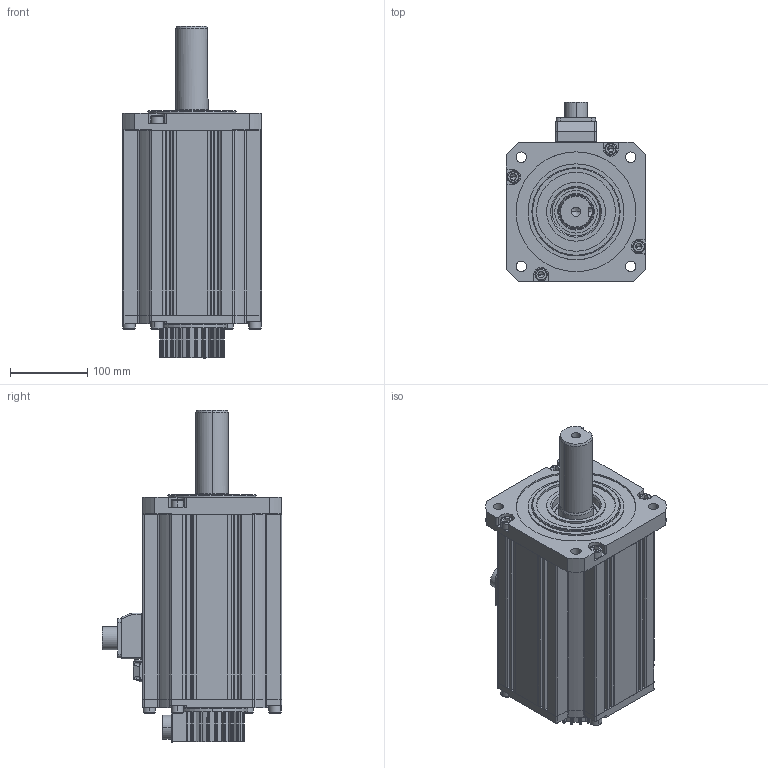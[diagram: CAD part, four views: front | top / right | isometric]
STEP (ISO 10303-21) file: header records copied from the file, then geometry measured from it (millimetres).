
FILE_DESCRIPTION (( 'STEP AP203' ), '1' );
FILE_NAME ('R180-5.5KW.STEP', '2018-11-27T01:03:22', ( 'redxblue' ), ( 'redxblue' ), 'SwSTEP 2.0', 'SolidWorks 2012', '' );
FILE_SCHEMA (( 'CONFIG_CONTROL_DESIGN' ));
Products named in the file (22): R180-5.5KW; 雄薯盄躇猾菜-001111; 雄薯盄揤裔-001; hexagon socket head cap screws gb1111_GB_FASTENER_SCREWS_HSHCS M10X30-N; 130-綴裔; 綴裔躇猾菜; 晤鎢ん瑤脣; 侜督萇儂窒璃; 蛌赽軞傖; hexagon socket head cap screws gb1111_GB_FASTENER_SCREWS_HSHCS M4X10-N; hexagon socket head cap screws gb1111_GB_FASTENER_SCREWS_HSHCS M3X10-S; 綴傷裔-002; deep groove ball bearings gb_Rolling bearings 6209 GB 276-94; deep groove ball bearings gb_Rolling bearings 6206 GB 276-94; 蛌赽郪璃; 180-粣; 180-ヶ傷裔; 隅赽軞傖; 萇埭盄瑤脣; 180-瑤脣; 瑤脣釱躇猾菜; 180-儂褲
Assembly tree (28 placements, depth 5):
  R180-5.5KW
    侜督萇儂窒璃
      隅赽軞傖
        180-儂褲
        瑤脣釱躇猾菜
        180-瑤脣
        萇埭盄瑤脣
      180-ヶ傷裔
      蛌赽軞傖
        蛌赽郪璃
          180-粣
        deep groove ball bearings gb_Rolling bearings 6206 GB 276-94
        deep groove ball bearings gb_Rolling bearings 6209 GB 276-94
        綴傷裔-002
        hexagon socket head cap screws gb1111_GB_FASTENER_SCREWS_HSHCS M3X10-S
        hexagon socket head cap screws gb1111_GB_FASTENER_SCREWS_HSHCS M4X10-N
    晤鎢ん瑤脣
    綴裔躇猾菜
    130-綴裔
    hexagon socket head cap screws gb1111_GB_FASTENER_SCREWS_HSHCS M10X30-N  x8
    雄薯盄揤裔-001
    雄薯盄躇猾菜-001111
Bounding box: 180 x 232 x 429.5 mm (x, y, z)
Volume: 2178108.2 mm3; surface area: 728947.1 mm2
Topology: 25 solids, 25 shells, 2058 faces, 5706 edges, 3619 vertices
Faces by surface type: cylinder 908, plane 626, cone 206, torus 164, sphere 154
Entity records: 65722 total; most frequent: CARTESIAN_POINT 15306, DIRECTION 10424, ORIENTED_EDGE 9972, EDGE_CURVE 4986, AXIS2_PLACEMENT_3D 4168, VERTEX_POINT 3194, CIRCLE 2250, EDGE_LOOP 2158
